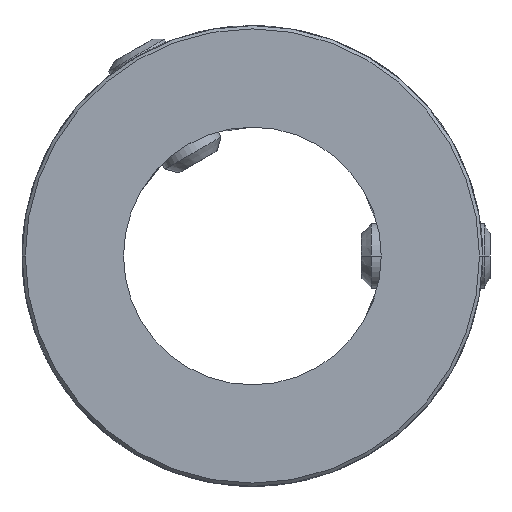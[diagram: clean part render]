
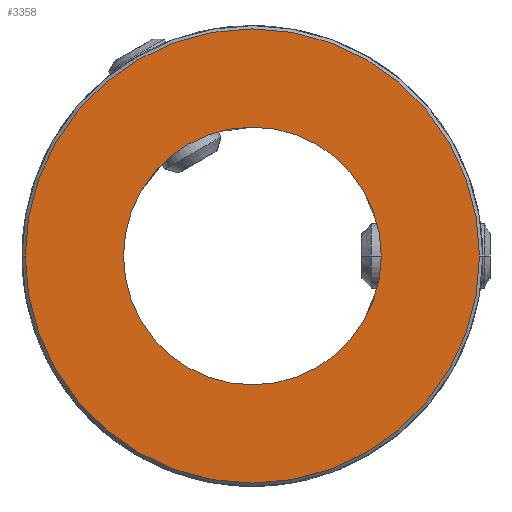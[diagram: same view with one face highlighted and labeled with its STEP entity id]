
A CAD part, front view. The second image highlights one B-rep face of the part: STEP entity #3358.
In plain terms, the highlighted planar face has unit normal (0, -1, 0).
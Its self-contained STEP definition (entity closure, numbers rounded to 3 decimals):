
#1=CARTESIAN_POINT('',(0.,-65.,
0.));
#2=DIRECTION('',(0.,-1.,0.));
#3=DIRECTION('',(-1.,0.,0.));
#4=AXIS2_PLACEMENT_3D('',#1,#2,#3);
#6=CARTESIAN_POINT('',(0.,-65.,
0.));
#7=DIRECTION('',(0.,-1.,0.));
#8=DIRECTION('',(1.,0.,0.));
#9=AXIS2_PLACEMENT_3D('',#6,#7,#8);
#11=CARTESIAN_POINT('',(0.,-65.,0.));
#12=DIRECTION('',(0.,1.,0.));
#13=DIRECTION('',(1.,0.,0.));
#14=AXIS2_PLACEMENT_3D('',#11,#12,#13);
#16=CARTESIAN_POINT('',(0.,-65.,0.));
#17=DIRECTION('',(0.,1.,0.));
#18=DIRECTION('',(-1.,0.,0.));
#19=AXIS2_PLACEMENT_3D('',#16,#17,#18);
#3095=CARTESIAN_POINT('',(16.,-65.,0.));
#3096=CARTESIAN_POINT('',(-16.,-65.,0.));
#3097=VERTEX_POINT('',#3095);
#3098=VERTEX_POINT('',#3096);
#3123=CARTESIAN_POINT('',(-28.2,-65.,0.));
#3124=CARTESIAN_POINT('',(28.2,-65.,0.));
#3125=VERTEX_POINT('',#3123);
#3126=VERTEX_POINT('',#3124);
#3341=CARTESIAN_POINT('',(0.,-65.,0.));
#3342=DIRECTION('',(0.,1.,0.));
#3343=DIRECTION('',(1.,0.,0.));
#3344=AXIS2_PLACEMENT_3D('',#3341,#3342,#3343);
#3345=PLANE('',#3344);
#3347=ORIENTED_EDGE('',*,*,#3346,.F.);
#3349=ORIENTED_EDGE('',*,*,#3348,.F.);
#3350=EDGE_LOOP('',(#3347,#3349));
#3351=FACE_OUTER_BOUND('',#3350,.F.);
#3353=ORIENTED_EDGE('',*,*,#3352,.F.);
#3355=ORIENTED_EDGE('',*,*,#3354,.F.);
#3356=EDGE_LOOP('',(#3353,#3355));
#3357=FACE_BOUND('',#3356,.F.);
#3358=ADVANCED_FACE('',(#3351,#3357),#3345,.F.);
#5=CIRCLE('',#4,28.2);
#10=CIRCLE('',#9,28.2);
#15=CIRCLE('',#14,16.);
#20=CIRCLE('',#19,16.);
#3346=EDGE_CURVE('',#3125,#3126,#5,.T.);
#3348=EDGE_CURVE('',#3126,#3125,#10,.T.);
#3352=EDGE_CURVE('',#3097,#3098,#15,.T.);
#3354=EDGE_CURVE('',#3098,#3097,#20,.T.);
